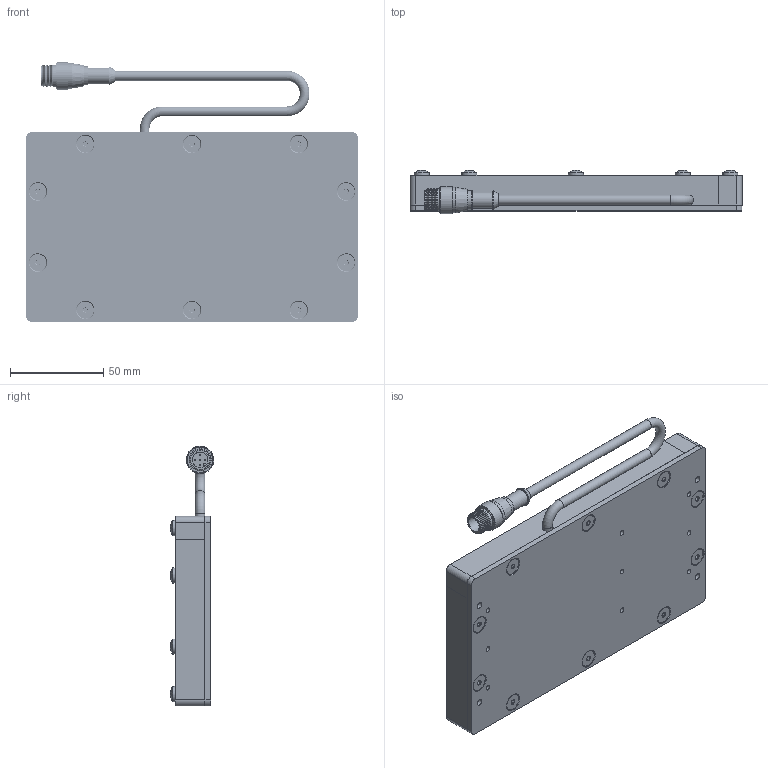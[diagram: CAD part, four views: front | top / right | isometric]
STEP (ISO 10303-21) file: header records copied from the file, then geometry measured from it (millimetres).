
FILE_DESCRIPTION (( 'STEP AP214' ), '1' );
FILE_NAME ('SBL36-XXX.STEP', '2026-04-17T18:36:18', ( '' ), ( '' ), 'SwSTEP 2.0', 'SolidWorks 2025', '' );
FILE_SCHEMA (( 'AUTOMOTIVE_DESIGN' ));
Length unit declared in the file: inch
Products named in the file (12): SBL36-XXX; BackPlate BLYYXX_0306; SBL3 to 18in rail_03in rail; WD-SBLYYXX_3x6 with holes; MC Pigtail 24; SBL3 to 18in rail_06in No CG; SC Pigtail Complete 18_5pin; 8-32 x 0.375 FHCS (92210A192)_92210A192; Hex Standoff .375 x 8-32; SBL3 to 18in rail_06in rail; M12 Connector 4,5 and 8 pin_RS4.5T; 8-32 x .375 Nylon Screw_.375" 94611A192
Assembly tree (39 placements, depth 3):
  SBL36-XXX
    BackPlate BLYYXX_0306
    SBL3 to 18in rail_06in rail
    SBL3 to 18in rail_06in No CG
    SBL3 to 18in rail_03in rail  x2
    SC Pigtail Complete 18_5pin
      MC Pigtail 24
      M12 Connector 4,5 and 8 pin_RS4.5T
    WD-SBLYYXX_3x6 with holes
    Hex Standoff .375 x 8-32  x10
    8-32 x 0.375 FHCS (92210A192)_92210A192  x10
    8-32 x .375 Nylon Screw_.375" 94611A192  x10
Bounding box: 177.8 x 23.38 x 139.13 mm (x, y, z)
Volume: 196058.4 mm3; surface area: 125067 mm2
Topology: 38 solids, 38 shells, 1183 faces, 2941 edges, 1875 vertices
Faces by surface type: plane 445, bspline 270, cylinder 251, cone 179, torus 23, sphere 15
Full cylindrical faces by diameter (mm): 0.762 x5, 2.705 x9, 3.454 x14, 4.496 x30, 5.207 x3, 6.604 x8, 6.858 x10, 8.128 x10, 8.382 x1, 8.636 x1, 9.119 x10, 10.16 x1, 10.541 x1, 11.938 x1, 13.716 x2, 14.732 x1
Entity records: 16799 total; most frequent: CARTESIAN_POINT 5780, DIRECTION 1995, ORIENTED_EDGE 1712, EDGE_CURVE 856, AXIS2_PLACEMENT_3D 813, EDGE_LOOP 637, VERTEX_POINT 627, FACE_OUTER_BOUND 482
